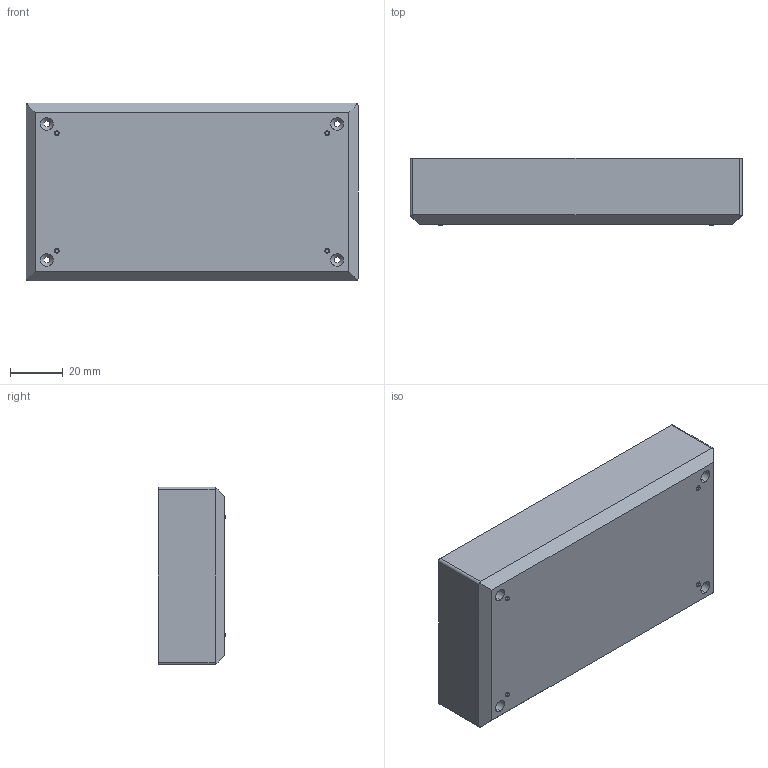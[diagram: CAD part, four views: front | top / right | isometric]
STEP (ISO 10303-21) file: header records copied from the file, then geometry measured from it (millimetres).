
FILE_DESCRIPTION (( 'STEP AP214' ), '1' );
FILE_NAME ('Cuerpo PP32.STEP', '2016-10-07T08:11:01', ( 'aaa' ), ( '' ), 'SwSTEP 2.0', 'SolidWorks 2013', '' );
FILE_SCHEMA (( 'AUTOMOTIVE_DESIGN' ));
Length unit declared in the file: millimetre
Products named in the file (1): Cuerpo PP32
Bounding box: 125.5 x 25.53 x 67.25 mm (x, y, z)
Volume: 56855.3 mm3; surface area: 38948.6 mm2
Topology: 1 solids, 1 shells, 172 faces, 433 edges, 282 vertices
Faces by surface type: plane 87, cylinder 69, cone 16
Entity records: 5221 total; most frequent: CARTESIAN_POINT 960, DIRECTION 909, ORIENTED_EDGE 866, EDGE_CURVE 433, AXIS2_PLACEMENT_3D 327, VERTEX_POINT 282, VECTOR 255, LINE 255
